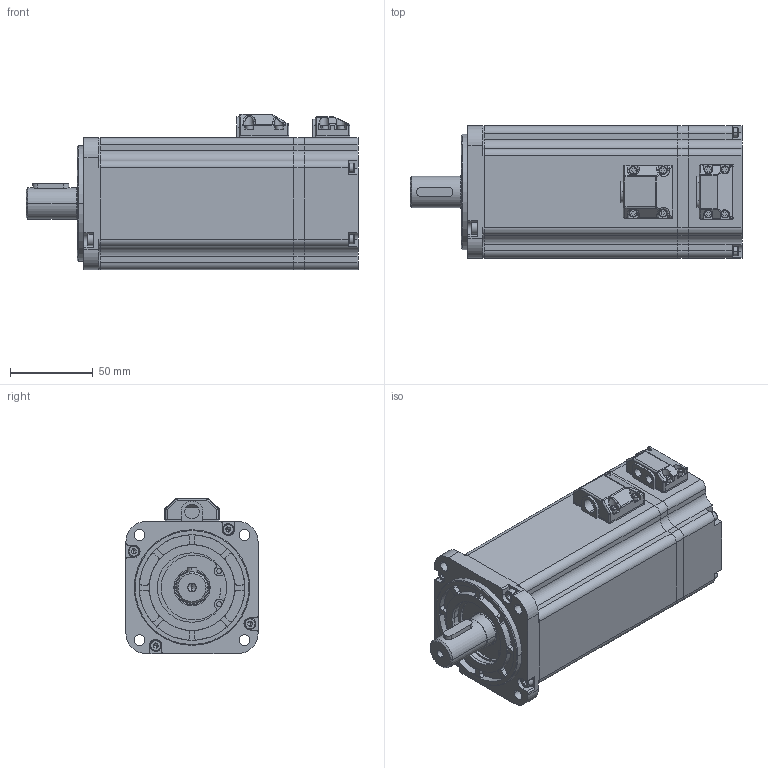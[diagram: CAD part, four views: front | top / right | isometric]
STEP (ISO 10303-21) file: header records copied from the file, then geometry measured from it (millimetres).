
FILE_DESCRIPTION (( 'STEP AP203' ), '1' );
FILE_NAME ('9.5891-SMC80S-0100-30ABK-5DSH.STEP', '2020-09-29T07:11:21', ( 'PC' ), ( 'Microsoft' ), 'SwSTEP 2.0', 'SolidWorks 2018', '' );
FILE_SCHEMA (( 'CONFIG_CONTROL_DESIGN' ));
Length unit declared in the file: millimetre
Products named in the file (34): 10105080002-轴承-GB／T276-94深沟球轴承6002-2Z; 10214020132-晤鎢ん-ZKD-58B-250BM(5P-G05L-B-0.65M); 10105030002-孔用挡圈-GB893.1-86 42MM; 207041252-蛌赽軞傖; 10105080003-轴承-GB／T276-94 NSK深沟球轴承6004-2Z; 10105010005-内六角圆柱头螺钉-GB70-85 M2.5×10(发黑); 10105010077-内六角圆柱头螺钉-GB70-85 M4x14(发黑); 10109020365-机壳-80L118.2毛塑(侧面开孔); 10215010033-閉肅斐价陬-Z119-S080B(24V)3.2C17; 10105010013-304不锈钢内六角圆柱头组合螺钉-M3X6; 10105010122-内六角圆柱头螺钉-GB70-85 M3X20(发黑); 207011206-隅赽郪璃-80L58-3X0.8-12婧-2-10P陎倛; 10105050109-埴芛す瑩A倰-5x5x10 GB 1096; 10105010025-内六角圆柱头螺钉-GB70-85 M3X35(发黑); 10109070256-鎢攫欶-80L32.4; 10109010052-ヶ傷裔禱矗-SMH80-753028ENC(KEB801-0001M); 10109030202-后端盖-80毛塑（毛坯同：10109030109）; 10105030019-弹簧垫圈-GB93-87 3MM; 10109090018-晤鎢ん竘盄碟-L21-W33-?8.6-?6.6; 80ヶ傷裔И璃; 10105030020-弹簧垫圈-GB93-87 4MM; 10105050002-埴芛す瑩A倰-6x6x22 GB 1096; 10109090019-电源引线盒-L32-W30-?11（动力最大配14AWG）; 10109010094-前端盖-80毛塑（毛坯同：10109010051）; 10105010084-内六角圆柱头螺钉-GB70-85 M4x25(发黑); 10108031266-蛌粣-80L186.4-L112.2; 9.5891-SMC80S-0100-30ABK-5DSH; 10110060022-萇埭竘盄菜-L21-W33-?5.5-?5.5; 10109100002-ﾖ盖ﾐｵ貶ｦ-ｦﾕ41.9-ｦﾕ22-0.5; 10105030027-轴用挡圈-GB894.1-86 15MM; 207041252-蛌赽郪璃; 10110060025-萇埭竘盄菜-L32-W30-?8.9; 10105030009-疏倛粟俶菜え-GB 955-87 ?42 汛=0.5 H=3.2; 10110030065-綻詩祧-羲耀梓こ
Assembly tree (56 placements, depth 4):
  9.5891-SMC80S-0100-30ABK-5DSH
    207041252-蛌赽軞傖
      207041252-蛌赽郪璃
        10108031266-蛌粣-80L186.4-L112.2
      10105080002-轴承-GB／T276-94深沟球轴承6002-2Z
      10105080003-轴承-GB／T276-94 NSK深沟球轴承6004-2Z
      10215010033-閉肅斐价陬-Z119-S080B(24V)3.2C17
      10105050109-埴芛す瑩A倰-5x5x10 GB 1096
      10109030202-后端盖-80毛塑（毛坯同：10109030109）
      10105030020-弹簧垫圈-GB93-87 4MM  x3
      10105010084-内六角圆柱头螺钉-GB70-85 M4x25(发黑)  x3
      10105030027-轴用挡圈-GB894.1-86 15MM
      10110030065-綻詩祧-羲耀梓こ
    207011206-隅赽郪璃-80L58-3X0.8-12婧-2-10P陎倛
      10109020365-机壳-80L118.2毛塑(侧面开孔)
    10109010094-前端盖-80毛塑（毛坯同：10109010051）
      10109010052-ヶ傷裔禱矗-SMH80-753028ENC(KEB801-0001M)
      80ヶ傷裔И璃
    10109100002-ﾖ盖ﾐｵ貶ｦ-ｦﾕ41.9-ｦﾕ22-0.5
    10105030009-疏倛粟俶菜え-GB 955-87 ?42 汛=0.5 H=3.2
    10105030002-孔用挡圈-GB893.1-86 42MM
    10105010077-内六角圆柱头螺钉-GB70-85 M4x14(发黑)  x4
    10105010122-内六角圆柱头螺钉-GB70-85 M3X20(发黑)  x4
    10109070256-鎢攫欶-80L32.4
    10109090018-晤鎢ん竘盄碟-L21-W33-?8.6-?6.6
    10109090019-电源引线盒-L32-W30-?11（动力最大配14AWG）
    10110060022-萇埭竘盄菜-L21-W33-?5.5-?5.5
    10110060025-萇埭竘盄菜-L32-W30-?8.9
    10214020132-晤鎢ん-ZKD-58B-250BM(5P-G05L-B-0.65M)
    10105010005-内六角圆柱头螺钉-GB70-85 M2.5×10(发黑)  x8
    10105010013-304不锈钢内六角圆柱头组合螺钉-M3X6
    10105010025-内六角圆柱头螺钉-GB70-85 M3X35(发黑)  x4
    10105030019-弹簧垫圈-GB93-87 3MM  x4
    10105050002-埴芛す瑩A倰-6x6x22 GB 1096
Bounding box: 201.1 x 80 x 94 mm (x, y, z)
Volume: 444290.9 mm3; surface area: 241051.9 mm2
Topology: 64 solids, 64 shells, 2689 faces, 7189 edges, 4543 vertices
Faces by surface type: cylinder 1092, plane 892, torus 211, sphere 194, cone 154, bspline 146
Entity records: 82418 total; most frequent: CARTESIAN_POINT 21964, ORIENTED_EDGE 11922, DIRECTION 11883, EDGE_CURVE 5961, AXIS2_PLACEMENT_3D 4740, VERTEX_POINT 3868, CIRCLE 2599, EDGE_LOOP 2521
